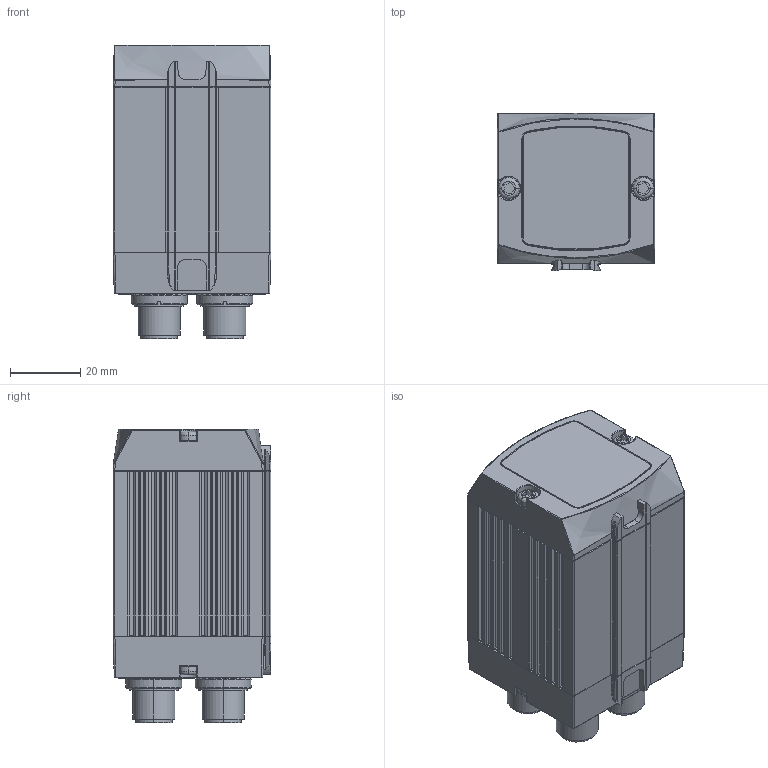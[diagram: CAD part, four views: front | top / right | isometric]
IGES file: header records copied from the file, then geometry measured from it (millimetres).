
Global section: file name: U://541394; native system: SolidDesigner 12.01C  26-Mar-2004; preprocessor: OneSpace IGES_3D V1.1; author: Unknown; organization: Unknown; date: 20050922.103316; units: millimetre
Bounding box: 45 x 45 x 83.7 mm (x, y, z)
Volume: 54517.4 mm3; surface area: 51402 mm2
Topology: 70 solids, 70 shells, 2409 faces, 6374 edges, 4151 vertices
Faces by surface type: bspline 2409
